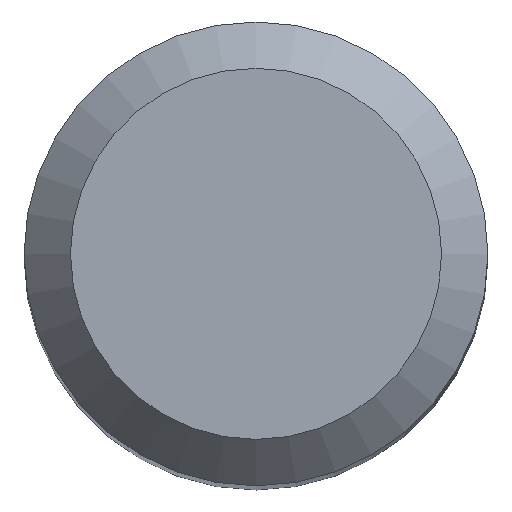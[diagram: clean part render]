
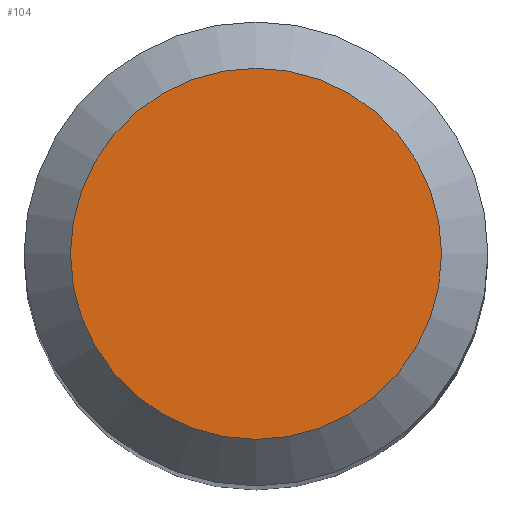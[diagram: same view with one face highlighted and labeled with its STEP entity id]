
A CAD part, top view. The second image highlights one B-rep face of the part: STEP entity #104.
In plain terms, the highlighted planar face has unit normal (0, 0, 1).
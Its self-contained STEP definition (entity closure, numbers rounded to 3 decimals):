
#88=CARTESIAN_POINT('',(4.0,0.0,110.0));
#89=DIRECTION('',(0.0,0.0,1.0));
#90=DIRECTION('',(1.0,0.0,0.0));
#91=AXIS2_PLACEMENT_3D('',#88,#89,#90);
#92=PLANE('',#91);
#93=CARTESIAN_POINT('',(-4.0,0.0,110.0));
#94=VERTEX_POINT('',#93);
#95=CARTESIAN_POINT('',(0.0,0.0,110.0));
#96=DIRECTION('',(0.0,0.0,-1.0));
#97=DIRECTION('',(-1.0,0.0,0.0));
#98=AXIS2_PLACEMENT_3D('',#95,#96,#97);
#99=CIRCLE('',#98,4.0);
#100=EDGE_CURVE('',#94,#94,#99,.T.);
#101=ORIENTED_EDGE('',*,*,#100,.F.);
#102=EDGE_LOOP('',(#101));
#103=FACE_OUTER_BOUND('',#102,.T.);
#104=ADVANCED_FACE('',(#103),#92,.T.);
